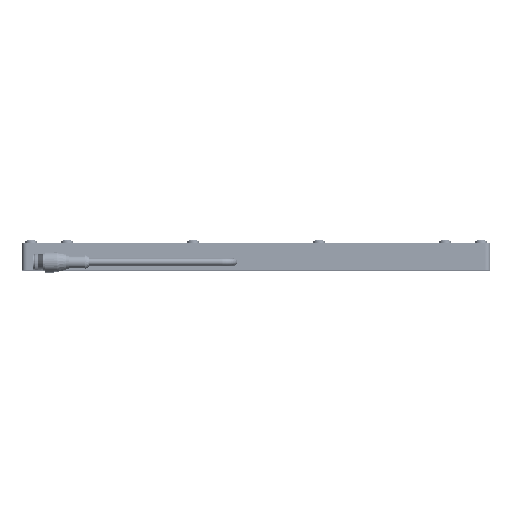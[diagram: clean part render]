
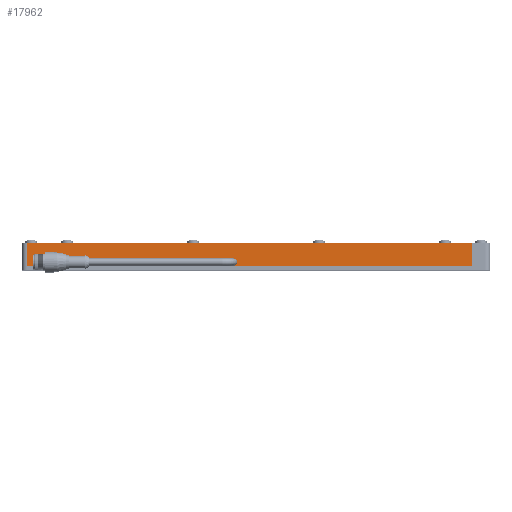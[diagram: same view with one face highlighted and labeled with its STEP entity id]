
A CAD part, top view. The second image highlights one B-rep face of the part: STEP entity #17962.
In plain terms, the highlighted planar face has unit normal (0, 0, 1) as drawn and (0, 0, -1) by its records, which use the part's own axes.
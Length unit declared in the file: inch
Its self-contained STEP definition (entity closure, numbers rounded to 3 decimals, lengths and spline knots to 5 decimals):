
#369 = LINE ( 'NONE', #4763, #16067 ) ;
#391 = LINE ( 'NONE', #16486, #6150 ) ;
#917 = EDGE_CURVE ( 'NONE', #15163, #8338, #9263, .T. ) ;
#1162 = ORIENTED_EDGE ( 'NONE', *, *, #4522, .T. ) ;
#1239 = CARTESIAN_POINT ( 'NONE',  ( 4.1025, -0.3125, -0.25 ) ) ;
#1449 = CARTESIAN_POINT ( 'NONE',  ( -6., 0.3125, -0.25 ) ) ;
#1460 = PLANE ( 'NONE',  #10442 ) ;
#1864 = CARTESIAN_POINT ( 'NONE',  ( -6.5, 0.3125, -0.25 ) ) ;
#3033 = EDGE_CURVE ( 'NONE', #9306, #15163, #13775, .T. ) ;
#3096 = EDGE_LOOP ( 'NONE', ( #6518, #9711, #14261, #8569, #15471, #1162, #6268, #17620, #15438 ) ) ;
#3464 = CARTESIAN_POINT ( 'NONE',  ( -6., -0.3125, -0.25 ) ) ;
#4522 = EDGE_CURVE ( 'NONE', #13822, #17640, #369, .T. ) ;
#4763 = CARTESIAN_POINT ( 'NONE',  ( 6.375, 0.3125, -0.25 ) ) ;
#5177 = DIRECTION ( 'NONE',  ( 0., 0., -1. ) ) ;
#5459 = VECTOR ( 'NONE', #16406, 39.37008 ) ;
#6150 = VECTOR ( 'NONE', #15040, 39.37008 ) ;
#6257 = VERTEX_POINT ( 'NONE', #13930 ) ;
#6268 = ORIENTED_EDGE ( 'NONE', *, *, #17213, .T. ) ;
#6518 = ORIENTED_EDGE ( 'NONE', *, *, #12694, .F. ) ;
#7299 = CARTESIAN_POINT ( 'NONE',  ( 3.99125, -0.20125, -0.25 ) ) ;
#7709 = LINE ( 'NONE', #1864, #10993 ) ;
#7710 = DIRECTION ( 'NONE',  ( 1., 0., 0. ) ) ;
#7798 = CARTESIAN_POINT ( 'NONE',  ( 4.00875, -0.20125, -0.25 ) ) ;
#8009 = VERTEX_POINT ( 'NONE', #9289 ) ;
#8088 = VERTEX_POINT ( 'NONE', #12068 ) ;
#8338 = VERTEX_POINT ( 'NONE', #1239 ) ;
#8569 = ORIENTED_EDGE ( 'NONE', *, *, #12804, .T. ) ;
#8953 = VECTOR ( 'NONE', #18646, 39.37008 ) ;
#9074 = VERTEX_POINT ( 'NONE', #1449 ) ;
#9219 = LINE ( 'NONE', #3464, #5459 ) ;
#9263 = LINE ( 'NONE', #15284, #13370 ) ;
#9289 = CARTESIAN_POINT ( 'NONE',  ( -6., -0.3125, -0.25 ) ) ;
#9306 = VERTEX_POINT ( 'NONE', #13962 ) ;
#9330 = DIRECTION ( 'NONE',  ( -1., 0., 0. ) ) ;
#9711 = ORIENTED_EDGE ( 'NONE', *, *, #18122, .F. ) ;
#9719 = VECTOR ( 'NONE', #14758, 39.37008 ) ;
#9935 = EDGE_CURVE ( 'NONE', #8088, #8009, #15041, .T. ) ;
#10436 = AXIS2_PLACEMENT_3D ( 'NONE', #7798, #5177, #7710 ) ;
#10442 = AXIS2_PLACEMENT_3D ( 'NONE', #12842, #11697, #17372 ) ;
#10562 = DIRECTION ( 'NONE',  ( 1., 0., 0. ) ) ;
#10670 = CIRCLE ( 'NONE', #17725, 0.09375 ) ;
#10795 = DIRECTION ( 'NONE',  ( 0., -1., 0. ) ) ;
#10993 = VECTOR ( 'NONE', #9330, 39.37008 ) ;
#11099 = EDGE_CURVE ( 'NONE', #13822, #9074, #7709, .T. ) ;
#11513 = FACE_OUTER_BOUND ( 'NONE', #3096, .T. ) ;
#11631 = CARTESIAN_POINT ( 'NONE',  ( 4.1025, -0.20125, -0.25 ) ) ;
#11697 = DIRECTION ( 'NONE',  ( 0., 0., 1. ) ) ;
#12068 = CARTESIAN_POINT ( 'NONE',  ( 3.8975, -0.3125, -0.25 ) ) ;
#12161 = CARTESIAN_POINT ( 'NONE',  ( -6.5, -0.3125, -0.25 ) ) ;
#12694 = EDGE_CURVE ( 'NONE', #6257, #9306, #10670, .T. ) ;
#12748 = CARTESIAN_POINT ( 'NONE',  ( 6.375, -0.3125, -0.25 ) ) ;
#12772 = LINE ( 'NONE', #14126, #8953 ) ;
#12804 = EDGE_CURVE ( 'NONE', #8009, #9074, #9219, .T. ) ;
#12842 = CARTESIAN_POINT ( 'NONE',  ( -6.5, 0.3125, -0.25 ) ) ;
#13370 = VECTOR ( 'NONE', #15182, 39.37008 ) ;
#13775 = CIRCLE ( 'NONE', #10436, 0.09375 ) ;
#13822 = VERTEX_POINT ( 'NONE', #16944 ) ;
#13930 = CARTESIAN_POINT ( 'NONE',  ( 3.8975, -0.20125, -0.25 ) ) ;
#13962 = CARTESIAN_POINT ( 'NONE',  ( 4., -0.10791, -0.25 ) ) ;
#14126 = CARTESIAN_POINT ( 'NONE',  ( -6.5, -0.3125, -0.25 ) ) ;
#14261 = ORIENTED_EDGE ( 'NONE', *, *, #9935, .T. ) ;
#14758 = DIRECTION ( 'NONE',  ( -1., 0., 0. ) ) ;
#15040 = DIRECTION ( 'NONE',  ( 0., 1., 0. ) ) ;
#15041 = LINE ( 'NONE', #12161, #9719 ) ;
#15163 = VERTEX_POINT ( 'NONE', #11631 ) ;
#15182 = DIRECTION ( 'NONE',  ( 0., -1., 0. ) ) ;
#15284 = CARTESIAN_POINT ( 'NONE',  ( 4.1025, -0.3125, -0.25 ) ) ;
#15438 = ORIENTED_EDGE ( 'NONE', *, *, #3033, .F. ) ;
#15471 = ORIENTED_EDGE ( 'NONE', *, *, #11099, .F. ) ;
#16067 = VECTOR ( 'NONE', #10795, 39.37008 ) ;
#16406 = DIRECTION ( 'NONE',  ( 0., 1., 0. ) ) ;
#16486 = CARTESIAN_POINT ( 'NONE',  ( 3.8975, -0.3125, -0.25 ) ) ;
#16944 = CARTESIAN_POINT ( 'NONE',  ( 6.375, 0.3125, -0.25 ) ) ;
#17213 = EDGE_CURVE ( 'NONE', #17640, #8338, #12772, .T. ) ;
#17372 = DIRECTION ( 'NONE',  ( 1., 0., 0. ) ) ;
#17620 = ORIENTED_EDGE ( 'NONE', *, *, #917, .F. ) ;
#17640 = VERTEX_POINT ( 'NONE', #12748 ) ;
#17659 = DIRECTION ( 'NONE',  ( 0., 0., -1. ) ) ;
#17725 = AXIS2_PLACEMENT_3D ( 'NONE', #7299, #17659, #10562 ) ;
#17962 = ADVANCED_FACE ( 'NONE', ( #11513 ), #1460, .F. ) ;
#18122 = EDGE_CURVE ( 'NONE', #8088, #6257, #391, .T. ) ;
#18646 = DIRECTION ( 'NONE',  ( -1., 0., 0. ) ) ;
